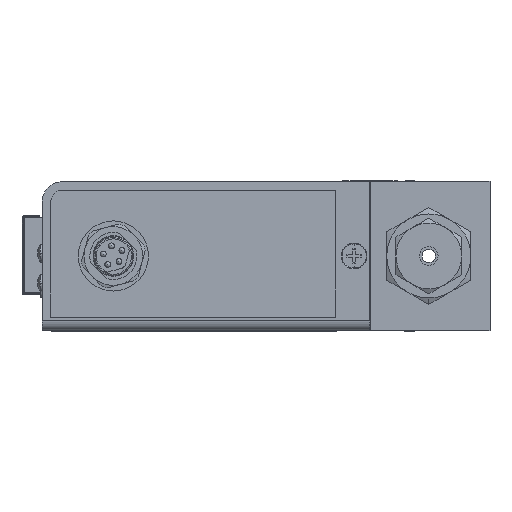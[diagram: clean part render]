
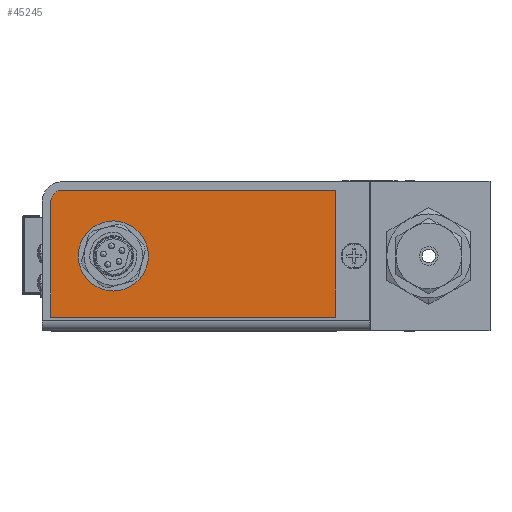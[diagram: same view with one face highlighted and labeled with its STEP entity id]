
A CAD part, left-side view. The second image highlights one B-rep face of the part: STEP entity #45245.
In plain terms, the highlighted planar face has unit normal (-1, 0, 0).
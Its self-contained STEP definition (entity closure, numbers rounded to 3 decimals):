
#1927 = ORIENTED_EDGE ( 'NONE', *, *, #44022, .F. ) ;
#3906 = DIRECTION ( 'NONE',  ( -1., 0., 0. ) ) ;
#8962 = LINE ( 'NONE', #43969, #112478 ) ;
#11300 = AXIS2_PLACEMENT_3D ( 'NONE', #29572, #17244, #61787 ) ;
#14009 = DIRECTION ( 'NONE',  ( 0., -1., 0. ) ) ;
#15321 = EDGE_CURVE ( 'NONE', #99229, #115086, #128048, .T. ) ;
#16185 = CARTESIAN_POINT ( 'NONE',  ( -0.127, 53.657, 0. ) ) ;
#17233 = LINE ( 'NONE', #39822, #113535 ) ;
#17244 = DIRECTION ( 'NONE',  ( -1., 0., 0. ) ) ;
#18654 = LINE ( 'NONE', #63208, #99241 ) ;
#20024 = ORIENTED_EDGE ( 'NONE', *, *, #125031, .T. ) ;
#20068 = DIRECTION ( 'NONE',  ( 0., -1., 0. ) ) ;
#21375 = ORIENTED_EDGE ( 'NONE', *, *, #88371, .T. ) ;
#25093 = DIRECTION ( 'NONE',  ( 0., -1., 0. ) ) ;
#25963 = VERTEX_POINT ( 'NONE', #82161 ) ;
#27824 = DIRECTION ( 'NONE',  ( -1., 0., 0. ) ) ;
#29572 = CARTESIAN_POINT ( 'NONE',  ( -0.127, 62.293, 9.144 ) ) ;
#29900 = AXIS2_PLACEMENT_3D ( 'NONE', #16185, #27824, #14009 ) ;
#30031 = VERTEX_POINT ( 'NONE', #131520 ) ;
#30281 = PLANE ( 'NONE',  #11300 ) ;
#32351 = DIRECTION ( 'NONE',  ( -1., 0., 0. ) ) ;
#33396 = CARTESIAN_POINT ( 'NONE',  ( -0.127, 62.293, 11.176 ) ) ;
#36777 = CARTESIAN_POINT ( 'NONE',  ( -0.127, 53.657, 0. ) ) ;
#39822 = CARTESIAN_POINT ( 'NONE',  ( -0.127, 64.325, -10.414 ) ) ;
#40006 = EDGE_CURVE ( 'NONE', #78878, #25963, #18654, .T. ) ;
#43969 = CARTESIAN_POINT ( 'NONE',  ( -0.127, 64.325, -10.414 ) ) ;
#44022 = EDGE_CURVE ( 'NONE', #30031, #104923, #74183, .T. ) ;
#45245 = ADVANCED_FACE ( 'NONE', ( #87311, #73471 ), #30281, .T. ) ;
#46320 = AXIS2_PLACEMENT_3D ( 'NONE', #132449, #32351, #90077 ) ;
#47681 = CARTESIAN_POINT ( 'NONE',  ( -0.127, 62.293, 11.176 ) ) ;
#50968 = VECTOR ( 'NONE', #133221, 1000. ) ;
#61787 = DIRECTION ( 'NONE',  ( 0., -1., 0. ) ) ;
#63208 = CARTESIAN_POINT ( 'NONE',  ( -0.127, 15.811, -10.414 ) ) ;
#69484 = AXIS2_PLACEMENT_3D ( 'NONE', #36777, #3906, #25093 ) ;
#71976 = CIRCLE ( 'NONE', #29900, 5.969 ) ;
#73471 = FACE_BOUND ( 'NONE', #111987, .T. ) ;
#74183 = CIRCLE ( 'NONE', #69484, 5.969 ) ;
#78878 = VERTEX_POINT ( 'NONE', #111495 ) ;
#82161 = CARTESIAN_POINT ( 'NONE',  ( -0.127, 15.811, 11.176 ) ) ;
#85633 = VERTEX_POINT ( 'NONE', #118311 ) ;
#86221 = EDGE_LOOP ( 'NONE', ( #21375, #107476, #117650, #142614, #20024 ) ) ;
#87311 = FACE_OUTER_BOUND ( 'NONE', #86221, .T. ) ;
#88371 = EDGE_CURVE ( 'NONE', #85633, #78878, #17233, .T. ) ;
#88586 = DIRECTION ( 'NONE',  ( 0., 0., -1. ) ) ;
#89216 = EDGE_CURVE ( 'NONE', #104923, #30031, #71976, .T. ) ;
#90077 = DIRECTION ( 'NONE',  ( 0., -1., 0. ) ) ;
#99229 = VERTEX_POINT ( 'NONE', #33396 ) ;
#99241 = VECTOR ( 'NONE', #107790, 1000. ) ;
#103271 = LINE ( 'NONE', #47681, #50968 ) ;
#104923 = VERTEX_POINT ( 'NONE', #134799 ) ;
#107476 = ORIENTED_EDGE ( 'NONE', *, *, #40006, .T. ) ;
#107790 = DIRECTION ( 'NONE',  ( 0., 0., 1. ) ) ;
#111495 = CARTESIAN_POINT ( 'NONE',  ( -0.127, 15.811, -10.414 ) ) ;
#111987 = EDGE_LOOP ( 'NONE', ( #136875, #1927 ) ) ;
#112477 = EDGE_CURVE ( 'NONE', #25963, #99229, #103271, .T. ) ;
#112478 = VECTOR ( 'NONE', #88586, 1000. ) ;
#113535 = VECTOR ( 'NONE', #20068, 1000. ) ;
#115086 = VERTEX_POINT ( 'NONE', #119736 ) ;
#117650 = ORIENTED_EDGE ( 'NONE', *, *, #112477, .T. ) ;
#118311 = CARTESIAN_POINT ( 'NONE',  ( -0.127, 64.325, -10.414 ) ) ;
#119736 = CARTESIAN_POINT ( 'NONE',  ( -0.127, 64.325, 9.144 ) ) ;
#125031 = EDGE_CURVE ( 'NONE', #115086, #85633, #8962, .T. ) ;
#128048 = CIRCLE ( 'NONE', #46320, 2.032 ) ;
#131520 = CARTESIAN_POINT ( 'NONE',  ( -0.127, 47.688, 0. ) ) ;
#132449 = CARTESIAN_POINT ( 'NONE',  ( -0.127, 62.293, 9.144 ) ) ;
#133221 = DIRECTION ( 'NONE',  ( 0., 1., 0. ) ) ;
#134799 = CARTESIAN_POINT ( 'NONE',  ( -0.127, 59.626, 0. ) ) ;
#136875 = ORIENTED_EDGE ( 'NONE', *, *, #89216, .F. ) ;
#142614 = ORIENTED_EDGE ( 'NONE', *, *, #15321, .T. ) ;
